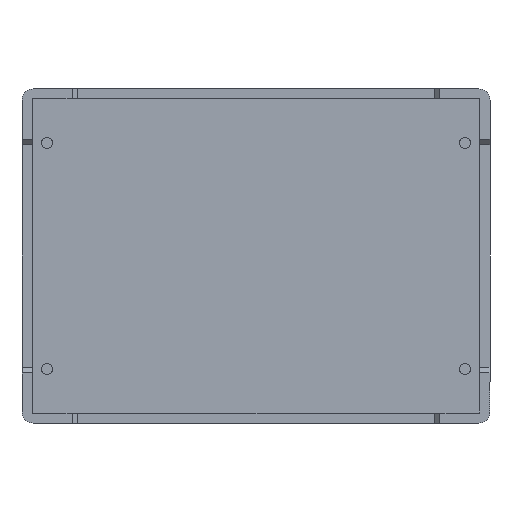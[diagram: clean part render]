
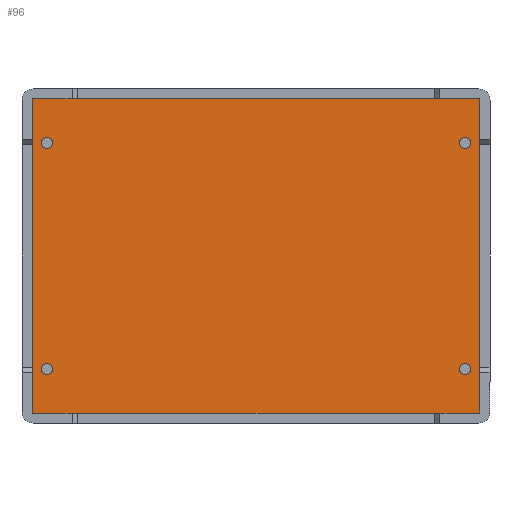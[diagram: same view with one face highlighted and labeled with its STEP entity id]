
A CAD part, front view. The second image highlights one B-rep face of the part: STEP entity #96.
In plain terms, the highlighted planar face has unit normal (0, -1, 0).
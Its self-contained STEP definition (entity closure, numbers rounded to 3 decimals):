
#44 = AXIS2_PLACEMENT_3D ( 'NONE', #3833, #3701, #3688 ) ;
#53 = EDGE_CURVE ( 'NONE', #2441, #2338, #825, .T. ) ;
#77 = VECTOR ( 'NONE', #539, 1000. ) ;
#96 = ADVANCED_FACE ( 'NONE', ( #625, #614, #645, #582, #583 ), #2036, .T. ) ;
#97 = CARTESIAN_POINT ( 'NONE',  ( 20.1, 1., -14. ) ) ;
#102 = EDGE_CURVE ( 'NONE', #2611, #2307, #465, .T. ) ;
#132 = AXIS2_PLACEMENT_3D ( 'NONE', #988, #974, #973 ) ;
#150 = DIRECTION ( 'NONE',  ( 0., 0., -1. ) ) ;
#161 = DIRECTION ( 'NONE',  ( 0., -1., 0. ) ) ;
#165 = EDGE_CURVE ( 'NONE', #2784, #2516, #190, .T. ) ;
#190 = LINE ( 'NONE', #684, #77 ) ;
#199 = EDGE_CURVE ( 'NONE', #2652, #2614, #4225, .T. ) ;
#208 = CARTESIAN_POINT ( 'NONE',  ( -20., 1., -14.1 ) ) ;
#219 = EDGE_CURVE ( 'NONE', #3082, #1879, #4030, .T. ) ;
#243 = EDGE_CURVE ( 'NONE', #2614, #2652, #4007, .T. ) ;
#250 = EDGE_CURVE ( 'NONE', #2996, #2761, #3439, .T. ) ;
#268 = EDGE_CURVE ( 'NONE', #2515, #2025, #2953, .T. ) ;
#273 = EDGE_CURVE ( 'NONE', #3044, #2391, #2973, .T. ) ;
#279 = EDGE_CURVE ( 'NONE', #1879, #2784, #2746, .T. ) ;
#289 = EDGE_CURVE ( 'NONE', #2516, #2611, #2394, .T. ) ;
#291 = EDGE_CURVE ( 'NONE', #2307, #2441, #2616, .T. ) ;
#299 = EDGE_CURVE ( 'NONE', #2338, #3082, #2246, .T. ) ;
#349 = CARTESIAN_POINT ( 'NONE',  ( -20., 1., 14. ) ) ;
#433 = CARTESIAN_POINT ( 'NONE',  ( 20., 1., 14.1 ) ) ;
#465 = LINE ( 'NONE', #1863, #503 ) ;
#498 = ORIENTED_EDGE ( 'NONE', *, *, #243, .F. ) ;
#503 = VECTOR ( 'NONE', #1861, 1000. ) ;
#513 = ORIENTED_EDGE ( 'NONE', *, *, #199, .F. ) ;
#517 = ORIENTED_EDGE ( 'NONE', *, *, #250, .F. ) ;
#539 = DIRECTION ( 'NONE',  ( 1., 0., 0. ) ) ;
#553 = ORIENTED_EDGE ( 'NONE', *, *, #1285, .F. ) ;
#561 = ORIENTED_EDGE ( 'NONE', *, *, #268, .F. ) ;
#567 = DIRECTION ( 'NONE',  ( 0., 0., -1. ) ) ;
#568 = ORIENTED_EDGE ( 'NONE', *, *, #1286, .F. ) ;
#573 = ORIENTED_EDGE ( 'NONE', *, *, #273, .F. ) ;
#582 = FACE_BOUND ( 'NONE', #1630, .T. ) ;
#583 = FACE_OUTER_BOUND ( 'NONE', #1483, .T. ) ;
#609 = ORIENTED_EDGE ( 'NONE', *, *, #857, .F. ) ;
#614 = FACE_BOUND ( 'NONE', #1593, .T. ) ;
#615 = ORIENTED_EDGE ( 'NONE', *, *, #219, .T. ) ;
#620 = DIRECTION ( 'NONE',  ( 0., 0., -1. ) ) ;
#623 = ORIENTED_EDGE ( 'NONE', *, *, #279, .T. ) ;
#625 = FACE_BOUND ( 'NONE', #1606, .T. ) ;
#636 = ORIENTED_EDGE ( 'NONE', *, *, #165, .T. ) ;
#645 = FACE_BOUND ( 'NONE', #1822, .T. ) ;
#677 = ORIENTED_EDGE ( 'NONE', *, *, #289, .T. ) ;
#680 = ORIENTED_EDGE ( 'NONE', *, *, #102, .T. ) ;
#684 = CARTESIAN_POINT ( 'NONE',  ( -20.1, 1., -14.1 ) ) ;
#686 = ORIENTED_EDGE ( 'NONE', *, *, #291, .T. ) ;
#688 = ORIENTED_EDGE ( 'NONE', *, *, #53, .T. ) ;
#694 = ORIENTED_EDGE ( 'NONE', *, *, #299, .T. ) ;
#825 = LINE ( 'NONE', #3096, #838 ) ;
#838 = VECTOR ( 'NONE', #3090, 1000. ) ;
#854 = CARTESIAN_POINT ( 'NONE',  ( -20.1, 1., 14.1 ) ) ;
#857 = EDGE_CURVE ( 'NONE', #2391, #3044, #1226, .T. ) ;
#868 = DIRECTION ( 'NONE',  ( 0., -1., 0. ) ) ;
#942 = AXIS2_PLACEMENT_3D ( 'NONE', #2405, #2386, #2350 ) ;
#973 = DIRECTION ( 'NONE',  ( 0., 0., -1. ) ) ;
#974 = DIRECTION ( 'NONE',  ( 0., -1., 0. ) ) ;
#975 = CARTESIAN_POINT ( 'NONE',  ( 18.75, 1., 10.15 ) ) ;
#988 = CARTESIAN_POINT ( 'NONE',  ( -18.75, 1., 10.15 ) ) ;
#1091 = DIRECTION ( 'NONE',  ( 0., 0., -1. ) ) ;
#1093 = CARTESIAN_POINT ( 'NONE',  ( 18.75, 1., -9.65 ) ) ;
#1110 = CARTESIAN_POINT ( 'NONE',  ( -18.75, 1., 10.65 ) ) ;
#1200 = DIRECTION ( 'NONE',  ( 0., -1., 0. ) ) ;
#1226 = CIRCLE ( 'NONE', #132, 0.5 ) ;
#1241 = AXIS2_PLACEMENT_3D ( 'NONE', #2321, #2283, #2273 ) ;
#1276 = CARTESIAN_POINT ( 'NONE',  ( 20., 1., 14. ) ) ;
#1285 = EDGE_CURVE ( 'NONE', #2761, #2996, #3891, .T. ) ;
#1286 = EDGE_CURVE ( 'NONE', #2025, #2515, #2752, .T. ) ;
#1322 = DIRECTION ( 'NONE',  ( 0., 0., -1. ) ) ;
#1354 = DIRECTION ( 'NONE',  ( 0., -1., 0. ) ) ;
#1429 = AXIS2_PLACEMENT_3D ( 'NONE', #3054, #3005, #2951 ) ;
#1483 = EDGE_LOOP ( 'NONE', ( #615, #623, #636, #677, #680, #686, #688, #694 ) ) ;
#1554 = DIRECTION ( 'NONE',  ( 0., 0., -1. ) ) ;
#1580 = CARTESIAN_POINT ( 'NONE',  ( 20., 1., -14. ) ) ;
#1583 = CARTESIAN_POINT ( 'NONE',  ( 20.1, 1., 14. ) ) ;
#1593 = EDGE_LOOP ( 'NONE', ( #517, #553 ) ) ;
#1606 = EDGE_LOOP ( 'NONE', ( #498, #513 ) ) ;
#1630 = EDGE_LOOP ( 'NONE', ( #573, #609 ) ) ;
#1822 = EDGE_LOOP ( 'NONE', ( #561, #568 ) ) ;
#1861 = DIRECTION ( 'NONE',  ( 0., 0., 1. ) ) ;
#1863 = CARTESIAN_POINT ( 'NONE',  ( 20.1, 1., -14.1 ) ) ;
#1879 = VERTEX_POINT ( 'NONE', #3167 ) ;
#2007 = DIRECTION ( 'NONE',  ( 0., 0., -1. ) ) ;
#2017 = DIRECTION ( 'NONE',  ( 0., 0., -1. ) ) ;
#2025 = VERTEX_POINT ( 'NONE', #3209 ) ;
#2028 = CARTESIAN_POINT ( 'NONE',  ( 0., 1., 0. ) ) ;
#2036 = PLANE ( 'NONE',  #2258 ) ;
#2128 = DIRECTION ( 'NONE',  ( 0., -1., 0. ) ) ;
#2133 = AXIS2_PLACEMENT_3D ( 'NONE', #2375, #2370, #2366 ) ;
#2227 = AXIS2_PLACEMENT_3D ( 'NONE', #975, #868, #567 ) ;
#2246 = CIRCLE ( 'NONE', #4261, 0.1 ) ;
#2258 = AXIS2_PLACEMENT_3D ( 'NONE', #2028, #2128, #2017 ) ;
#2273 = DIRECTION ( 'NONE',  ( 0., 0., -1. ) ) ;
#2283 = DIRECTION ( 'NONE',  ( 0., -1., 0. ) ) ;
#2307 = VERTEX_POINT ( 'NONE', #1583 ) ;
#2321 = CARTESIAN_POINT ( 'NONE',  ( -18.75, 1., -10.15 ) ) ;
#2330 = DIRECTION ( 'NONE',  ( 0., -1., 0. ) ) ;
#2338 = VERTEX_POINT ( 'NONE', #4460 ) ;
#2350 = DIRECTION ( 'NONE',  ( 0., 0., -1. ) ) ;
#2366 = DIRECTION ( 'NONE',  ( 0., 0., -1. ) ) ;
#2370 = DIRECTION ( 'NONE',  ( 0., -1., 0. ) ) ;
#2375 = CARTESIAN_POINT ( 'NONE',  ( -20., 1., -14. ) ) ;
#2386 = DIRECTION ( 'NONE',  ( 0., -1., 0. ) ) ;
#2391 = VERTEX_POINT ( 'NONE', #3612 ) ;
#2394 = CIRCLE ( 'NONE', #3264, 0.1 ) ;
#2395 = CARTESIAN_POINT ( 'NONE',  ( 18.75, 1., -10.15 ) ) ;
#2405 = CARTESIAN_POINT ( 'NONE',  ( 18.75, 1., -10.15 ) ) ;
#2420 = DIRECTION ( 'NONE',  ( 0., -1., 0. ) ) ;
#2441 = VERTEX_POINT ( 'NONE', #433 ) ;
#2515 = VERTEX_POINT ( 'NONE', #3664 ) ;
#2516 = VERTEX_POINT ( 'NONE', #2739 ) ;
#2564 = AXIS2_PLACEMENT_3D ( 'NONE', #2692, #2420, #2007 ) ;
#2611 = VERTEX_POINT ( 'NONE', #97 ) ;
#2614 = VERTEX_POINT ( 'NONE', #2757 ) ;
#2616 = CIRCLE ( 'NONE', #2848, 0.1 ) ;
#2652 = VERTEX_POINT ( 'NONE', #2771 ) ;
#2692 = CARTESIAN_POINT ( 'NONE',  ( 18.75, 1., 10.15 ) ) ;
#2739 = CARTESIAN_POINT ( 'NONE',  ( 20., 1., -14.1 ) ) ;
#2746 = CIRCLE ( 'NONE', #2133, 0.1 ) ;
#2752 = CIRCLE ( 'NONE', #1241, 0.5 ) ;
#2757 = CARTESIAN_POINT ( 'NONE',  ( 18.75, 1., 10.65 ) ) ;
#2761 = VERTEX_POINT ( 'NONE', #3132 ) ;
#2771 = CARTESIAN_POINT ( 'NONE',  ( 18.75, 1., 9.65 ) ) ;
#2784 = VERTEX_POINT ( 'NONE', #208 ) ;
#2848 = AXIS2_PLACEMENT_3D ( 'NONE', #1276, #1200, #1091 ) ;
#2936 = AXIS2_PLACEMENT_3D ( 'NONE', #2395, #2330, #1554 ) ;
#2951 = DIRECTION ( 'NONE',  ( 0., 0., -1. ) ) ;
#2953 = CIRCLE ( 'NONE', #44, 0.5 ) ;
#2973 = CIRCLE ( 'NONE', #1429, 0.5 ) ;
#2996 = VERTEX_POINT ( 'NONE', #1093 ) ;
#3005 = DIRECTION ( 'NONE',  ( 0., -1., 0. ) ) ;
#3044 = VERTEX_POINT ( 'NONE', #1110 ) ;
#3054 = CARTESIAN_POINT ( 'NONE',  ( -18.75, 1., 10.15 ) ) ;
#3082 = VERTEX_POINT ( 'NONE', #4411 ) ;
#3090 = DIRECTION ( 'NONE',  ( -1., 0., 0. ) ) ;
#3096 = CARTESIAN_POINT ( 'NONE',  ( 20.1, 1., 14.1 ) ) ;
#3132 = CARTESIAN_POINT ( 'NONE',  ( 18.75, 1., -10.65 ) ) ;
#3167 = CARTESIAN_POINT ( 'NONE',  ( -20.1, 1., -14. ) ) ;
#3209 = CARTESIAN_POINT ( 'NONE',  ( -18.75, 1., -10.65 ) ) ;
#3264 = AXIS2_PLACEMENT_3D ( 'NONE', #1580, #1354, #1322 ) ;
#3439 = CIRCLE ( 'NONE', #2936, 0.5 ) ;
#3612 = CARTESIAN_POINT ( 'NONE',  ( -18.75, 1., 9.65 ) ) ;
#3664 = CARTESIAN_POINT ( 'NONE',  ( -18.75, 1., -9.65 ) ) ;
#3688 = DIRECTION ( 'NONE',  ( 0., 0., -1. ) ) ;
#3701 = DIRECTION ( 'NONE',  ( 0., -1., 0. ) ) ;
#3833 = CARTESIAN_POINT ( 'NONE',  ( -18.75, 1., -10.15 ) ) ;
#3891 = CIRCLE ( 'NONE', #942, 0.5 ) ;
#3965 = VECTOR ( 'NONE', #620, 1000. ) ;
#4007 = CIRCLE ( 'NONE', #2227, 0.5 ) ;
#4030 = LINE ( 'NONE', #854, #3965 ) ;
#4225 = CIRCLE ( 'NONE', #2564, 0.5 ) ;
#4261 = AXIS2_PLACEMENT_3D ( 'NONE', #349, #161, #150 ) ;
#4411 = CARTESIAN_POINT ( 'NONE',  ( -20.1, 1., 14. ) ) ;
#4460 = CARTESIAN_POINT ( 'NONE',  ( -20., 1., 14.1 ) ) ;
